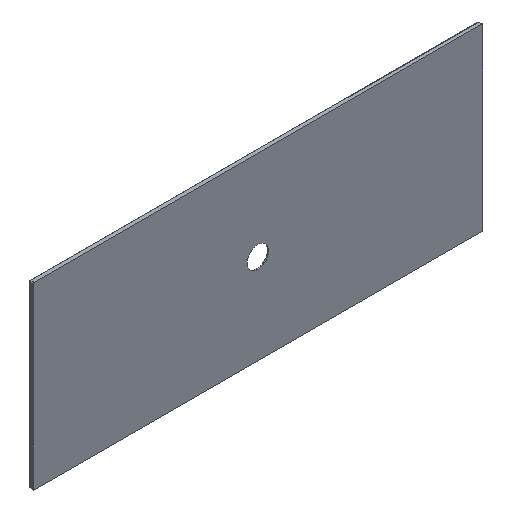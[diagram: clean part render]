
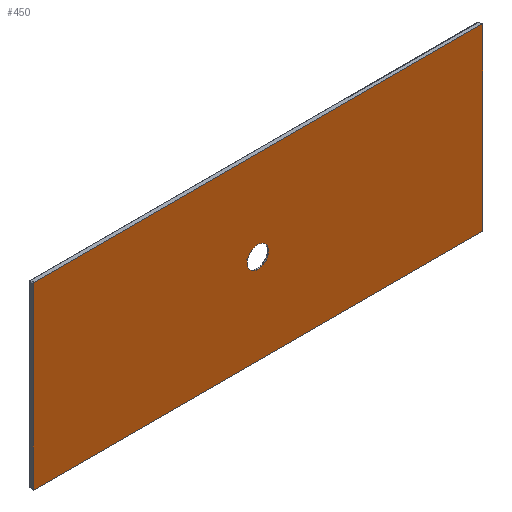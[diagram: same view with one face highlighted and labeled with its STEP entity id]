
A CAD part, isometric view. The second image highlights one B-rep face of the part: STEP entity #450.
In plain terms, the highlighted planar face has unit normal (0, -1, 0).
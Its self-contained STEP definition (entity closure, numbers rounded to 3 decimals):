
#18 = CARTESIAN_POINT ( 'NONE',  ( -1000., 0., 397.929 ) ) ;
#30 = CARTESIAN_POINT ( 'NONE',  ( 1000., 0., -395.001 ) ) ;
#53 = CARTESIAN_POINT ( 'NONE',  ( -1000., 0., -395.001 ) ) ;
#111 = EDGE_LOOP ( 'NONE', ( #849 ) ) ;
#126 = VECTOR ( 'NONE', #1180, 1000. ) ;
#151 = CARTESIAN_POINT ( 'NONE',  ( 1000., 0., 395.001 ) ) ;
#181 = LINE ( 'NONE', #2398, #1421 ) ;
#190 = EDGE_CURVE ( 'NONE', #980, #628, #1707, .T. ) ;
#226 = CARTESIAN_POINT ( 'NONE',  ( -1000., 0., -395.001 ) ) ;
#229 = VERTEX_POINT ( 'NONE', #151 ) ;
#236 = FACE_OUTER_BOUND ( 'NONE', #1979, .T. ) ;
#248 = VECTOR ( 'NONE', #797, 1000. ) ;
#253 = VERTEX_POINT ( 'NONE', #2184 ) ;
#371 = ORIENTED_EDGE ( 'NONE', *, *, #2313, .F. ) ;
#381 = EDGE_CURVE ( 'NONE', #652, #253, #1015, .T. ) ;
#393 = EDGE_CURVE ( 'NONE', #880, #253, #1765, .T. ) ;
#405 = CARTESIAN_POINT ( 'NONE',  ( 1000., 0., 395.001 ) ) ;
#407 = EDGE_CURVE ( 'NONE', #652, #481, #1128, .T. ) ;
#432 = VERTEX_POINT ( 'NONE', #1232 ) ;
#450 = ADVANCED_FACE ( 'NONE', ( #2232, #236 ), #1409, .F. ) ;
#451 = CARTESIAN_POINT ( 'NONE',  ( -997.929, 0., -400. ) ) ;
#481 = VERTEX_POINT ( 'NONE', #601 ) ;
#495 = CIRCLE ( 'NONE', #2083, 47.5 ) ;
#535 = CARTESIAN_POINT ( 'NONE',  ( 1000., 0., 400. ) ) ;
#601 = CARTESIAN_POINT ( 'NONE',  ( -995.001, 0., -400. ) ) ;
#611 = CARTESIAN_POINT ( 'NONE',  ( -995.001, 0., -400. ) ) ;
#615 = DIRECTION ( 'NONE',  ( 1., 0., 0. ) ) ;
#628 = VERTEX_POINT ( 'NONE', #30 ) ;
#644 = EDGE_CURVE ( 'NONE', #980, #481, #1633, .T. ) ;
#652 = VERTEX_POINT ( 'NONE', #53 ) ;
#658 = EDGE_CURVE ( 'NONE', #229, #1131, #1782, .T. ) ;
#666 = ORIENTED_EDGE ( 'NONE', *, *, #658, .T. ) ;
#691 = ORIENTED_EDGE ( 'NONE', *, *, #1048, .F. ) ;
#731 = LINE ( 'NONE', #535, #126 ) ;
#772 = CARTESIAN_POINT ( 'NONE',  ( 1000., 0., -397.929 ) ) ;
#785 = ORIENTED_EDGE ( 'NONE', *, *, #190, .T. ) ;
#797 = DIRECTION ( 'NONE',  ( -1., 0., 0. ) ) ;
#849 = ORIENTED_EDGE ( 'NONE', *, *, #1022, .F. ) ;
#880 = VERTEX_POINT ( 'NONE', #2520 ) ;
#904 = CARTESIAN_POINT ( 'NONE',  ( 0., 0., 0. ) ) ;
#978 = CARTESIAN_POINT ( 'NONE',  ( 995.001, 0., -400. ) ) ;
#980 = VERTEX_POINT ( 'NONE', #2270 ) ;
#1001 = CARTESIAN_POINT ( 'NONE',  ( 1000., 0., -400. ) ) ;
#1015 = LINE ( 'NONE', #1806, #1961 ) ;
#1022 = EDGE_CURVE ( 'NONE', #432, #432, #495, .T. ) ;
#1048 = EDGE_CURVE ( 'NONE', #229, #628, #731, .T. ) ;
#1084 = DIRECTION ( 'NONE',  ( 0., 0., -1. ) ) ;
#1128 =( BOUNDED_CURVE ( )  B_SPLINE_CURVE ( 3, ( #226, #1839, #451, #611 ),
 .UNSPECIFIED., .F., .T. ) 
 B_SPLINE_CURVE_WITH_KNOTS ( ( 4, 4 ),
 ( 5.498, 7.068 ),
 .UNSPECIFIED. ) 
 CURVE ( )  GEOMETRIC_REPRESENTATION_ITEM ( )  RATIONAL_B_SPLINE_CURVE ( ( 1., 0.805, 0.805, 1. ) ) 
 REPRESENTATION_ITEM ( '' )  );
#1131 = VERTEX_POINT ( 'NONE', #2116 ) ;
#1180 = DIRECTION ( 'NONE',  ( 0., 0., -1. ) ) ;
#1232 = CARTESIAN_POINT ( 'NONE',  ( 0., 0., -47.5 ) ) ;
#1409 = PLANE ( 'NONE',  #1918 ) ;
#1421 = VECTOR ( 'NONE', #615, 1000. ) ;
#1423 = CARTESIAN_POINT ( 'NONE',  ( 995.001, 0., 400. ) ) ;
#1559 = CARTESIAN_POINT ( 'NONE',  ( 997.929, 0., -400. ) ) ;
#1571 = CARTESIAN_POINT ( 'NONE',  ( 1000., 0., -395.001 ) ) ;
#1598 = DIRECTION ( 'NONE',  ( 0., 0., 1. ) ) ;
#1611 = CARTESIAN_POINT ( 'NONE',  ( -997.929, 0., 400. ) ) ;
#1622 = CARTESIAN_POINT ( 'NONE',  ( 1000., 0., 397.929 ) ) ;
#1633 = LINE ( 'NONE', #1001, #248 ) ;
#1690 = ORIENTED_EDGE ( 'NONE', *, *, #407, .T. ) ;
#1698 = DIRECTION ( 'NONE',  ( 0., -1., 0. ) ) ;
#1707 =( BOUNDED_CURVE ( )  B_SPLINE_CURVE ( 3, ( #978, #1559, #772, #1571 ),
 .UNSPECIFIED., .F., .F. ) 
 B_SPLINE_CURVE_WITH_KNOTS ( ( 4, 4 ),
 ( 5.498, 7.068 ),
 .UNSPECIFIED. ) 
 CURVE ( )  GEOMETRIC_REPRESENTATION_ITEM ( )  RATIONAL_B_SPLINE_CURVE ( ( 1., 0.805, 0.805, 1. ) ) 
 REPRESENTATION_ITEM ( '' )  );
#1765 =( BOUNDED_CURVE ( )  B_SPLINE_CURVE ( 3, ( #2023, #1611, #18, #1794 ),
 .UNSPECIFIED., .F., .T. ) 
 B_SPLINE_CURVE_WITH_KNOTS ( ( 4, 4 ),
 ( 5.498, 7.068 ),
 .UNSPECIFIED. ) 
 CURVE ( )  GEOMETRIC_REPRESENTATION_ITEM ( )  RATIONAL_B_SPLINE_CURVE ( ( 1., 0.805, 0.805, 1. ) ) 
 REPRESENTATION_ITEM ( '' )  );
#1782 =( BOUNDED_CURVE ( )  B_SPLINE_CURVE ( 3, ( #405, #1622, #2418, #1423 ),
 .UNSPECIFIED., .F., .T. ) 
 B_SPLINE_CURVE_WITH_KNOTS ( ( 4, 4 ),
 ( 5.498, 7.068 ),
 .UNSPECIFIED. ) 
 CURVE ( )  GEOMETRIC_REPRESENTATION_ITEM ( )  RATIONAL_B_SPLINE_CURVE ( ( 1., 0.805, 0.805, 1. ) ) 
 REPRESENTATION_ITEM ( '' )  );
#1794 = CARTESIAN_POINT ( 'NONE',  ( -1000., 0., 395.001 ) ) ;
#1806 = CARTESIAN_POINT ( 'NONE',  ( -1000., 0., -400. ) ) ;
#1839 = CARTESIAN_POINT ( 'NONE',  ( -1000., 0., -397.929 ) ) ;
#1918 = AXIS2_PLACEMENT_3D ( 'NONE', #2000, #2394, #1598 ) ;
#1961 = VECTOR ( 'NONE', #2035, 1000. ) ;
#1979 = EDGE_LOOP ( 'NONE', ( #2212, #785, #691, #666, #371, #2079, #2410, #1690 ) ) ;
#2000 = CARTESIAN_POINT ( 'NONE',  ( 0., 0., 0. ) ) ;
#2023 = CARTESIAN_POINT ( 'NONE',  ( -995.001, 0., 400. ) ) ;
#2035 = DIRECTION ( 'NONE',  ( 0., 0., 1. ) ) ;
#2079 = ORIENTED_EDGE ( 'NONE', *, *, #393, .T. ) ;
#2083 = AXIS2_PLACEMENT_3D ( 'NONE', #904, #1698, #1084 ) ;
#2116 = CARTESIAN_POINT ( 'NONE',  ( 995.001, 0., 400. ) ) ;
#2184 = CARTESIAN_POINT ( 'NONE',  ( -1000., 0., 395.001 ) ) ;
#2212 = ORIENTED_EDGE ( 'NONE', *, *, #644, .F. ) ;
#2232 = FACE_BOUND ( 'NONE', #111, .T. ) ;
#2270 = CARTESIAN_POINT ( 'NONE',  ( 995.001, 0., -400. ) ) ;
#2313 = EDGE_CURVE ( 'NONE', #880, #1131, #181, .T. ) ;
#2394 = DIRECTION ( 'NONE',  ( 0., 1., 0. ) ) ;
#2398 = CARTESIAN_POINT ( 'NONE',  ( -1000., 0., 400. ) ) ;
#2410 = ORIENTED_EDGE ( 'NONE', *, *, #381, .F. ) ;
#2418 = CARTESIAN_POINT ( 'NONE',  ( 997.929, 0., 400. ) ) ;
#2520 = CARTESIAN_POINT ( 'NONE',  ( -995.001, 0., 400. ) ) ;
